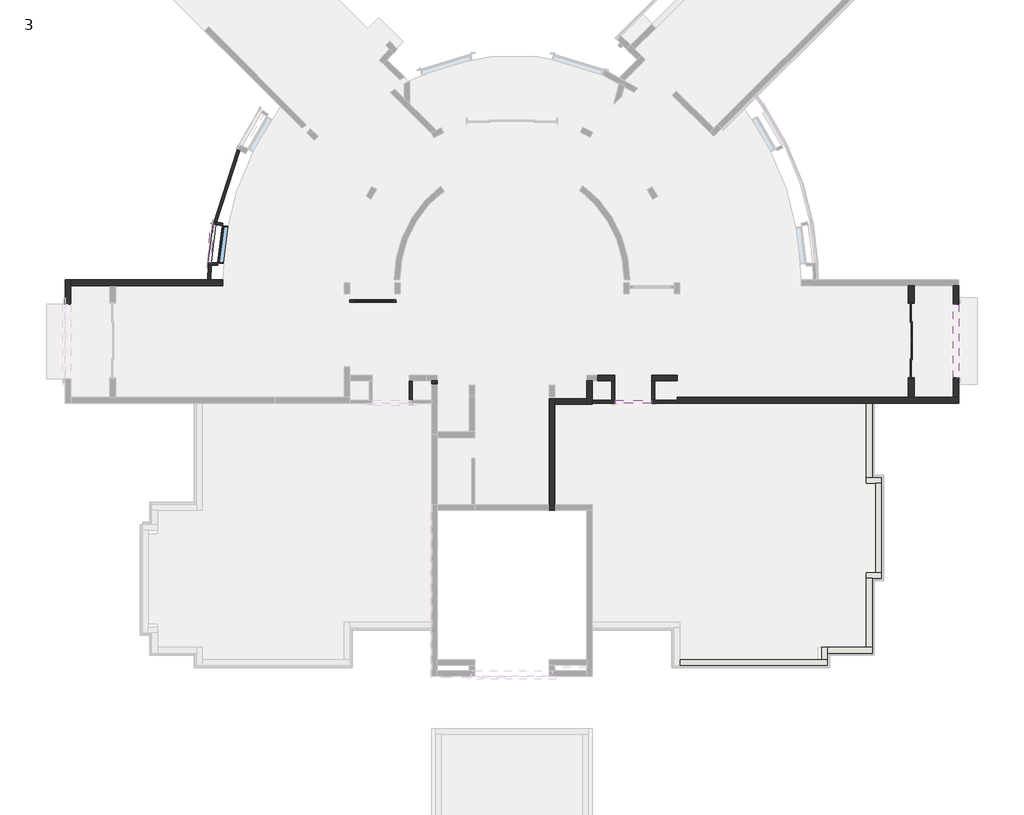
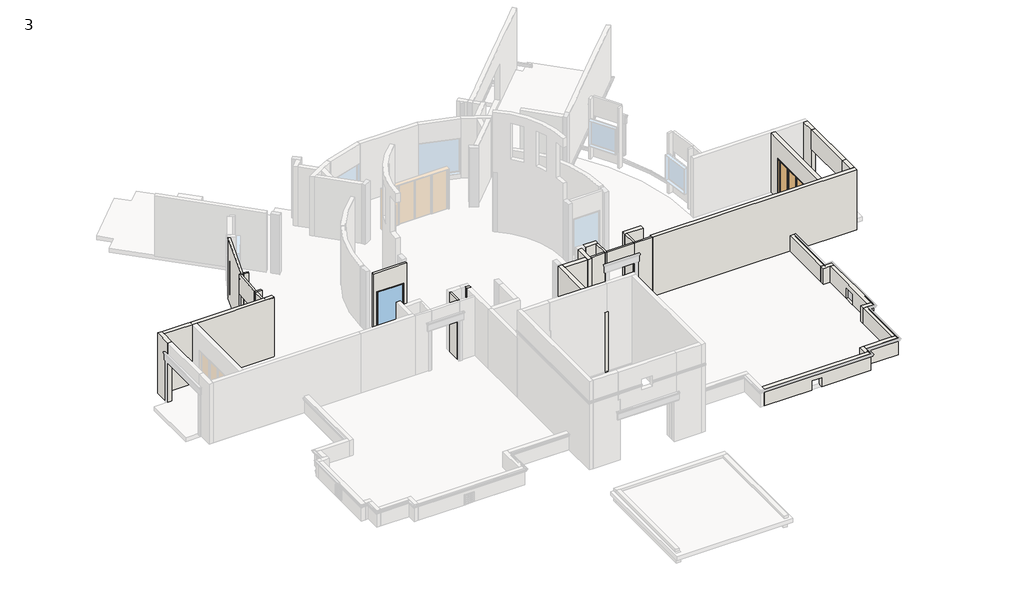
# One storey, part 2 of 12: 34 walls, 2 windows, 1 door.
"""IFC4 building model written with IfcOpenShell, lengths in millimetres."""

from ifc_helpers import new_model, si_unit, point, frame, frame_2d, origin, place, context, project, spatial, polyline, circle_curve, trimmed, segment, composite_curve, outline, extrude, faceted_brep, transform, mapped, element, save
from ifc_brep_helpers import plane_surface, cylinder_surface, revolved_surface, advanced_brep
from components import aus_sliding_door_4_panel_type_3_7ec97240, fixed_w2_3_782477aa, fixed_w5f_2_3b2bf8fd

model = new_model("IFC4")

# Units and contexts
model_context = context("Model", 3, world=origin())
ifc_project = project(units=[si_unit("LENGTHUNIT", "METRE", prefix="MILLI")], contexts=[model_context])

# Site, building, storey
site = spatial("IfcSite", under=ifc_project)
building = spatial("IfcBuilding", under=site)
storey = spatial("IfcBuildingStorey", under=building, Name="3", Elevation=3581.4)

# Door
placement = place(None, origin())
aus_sliding_door_4_panel_type_3_shape = aus_sliding_door_4_panel_type_3_7ec97240(model_context)
element("IfcDoor", 1, ObjectType="AUS_Sliding Door 4 Panel : Type 3", at=placement, inside=storey, context=model_context, shape_type="MappedRepresentation", body=[
    mapped(aus_sliding_door_4_panel_type_3_shape, transform((7918.2049094, -1857.8613299, 3581.4), x_axis=(0.0, -1.0, 0.0), y_axis=(1.0, 0.0, 0.0), z_axis=(0.0, 0.0, 1.0))),
])

# Walls
element("IfcWall", 2, ObjectType="115mm  BK WALL 3", at=placement, inside=storey, context=model_context, shape_type="Brep", body=[
    faceted_brep([(-12579.5950906, -3581.9193311, 3581.4), (-12579.5950906, -4382.0193311, 3581.4), (-12579.5950906, -4382.0193311, 6019.8), (-12579.5950906, -4382.0193311, 7162.8), (-12579.5950906, -3581.9193311, 7162.8), (-12465.2950906, -3581.9193311, 3581.4), (-12465.2950906, -3581.9193311, 7162.8), (-12465.2950906, -4382.0193311, 7162.8), (-12465.2950906, -4382.0193311, 3581.4), (-12522.4450906, -4382.0193311, 7162.8)], [[[0, 1, 2, 3, 4]], [[5, 6, 7, 8]], [[1, 0, 5, 8]], [[4, 3, 9, 7, 6]], [[0, 4, 6, 5]], [[1, 8, 7, 9, 3, 2]]]),
])
element("IfcWall", 3, ObjectType="115mm  BK WALL 3", at=placement, inside=storey, context=model_context, shape_type="AdvancedBrep", body=[
    advanced_brep(
    [(-15017.9950906, -381.5193311, 3581.4), (-13113.6333445, -381.5193311, 3581.4), (-13113.6333445, -381.5193311, 7162.8), (-15017.9950906, -381.5193311, 7162.8), (-14810.3508727, -381.5193311, 6019.8), (-13286.3508727, -381.5193311, 6019.8), (-13286.3508727, -381.5193311, 3886.2), (-14810.3508727, -381.5193311, 3886.2), (-15017.9950906, -267.2193311, 3581.4), (-15017.9950906, -267.2193311, 7162.8), (-13134.4006599, -267.2193311, 7162.8), (-13134.4006599, -267.2193311, 3581.4), (-14810.3508727, -267.2193311, 6019.8), (-14810.3508727, -267.2193311, 3886.2), (-13286.3508727, -267.2193311, 3886.2), (-13286.3508727, -267.2193311, 6019.8)],
    [
        (0, 1),
        (1, 2),
        (2, 3),
        (3, 0),
        (4, 5),
        (5, 6),
        (6, 7),
        (7, 4),
        (8, 9),
        (9, 10),
        (10, 11),
        (11, 8),
        (12, 13),
        (13, 14),
        (14, 15),
        (15, 12),
        (0, 8),
        (11, 1, circle_curve(frame((-8388.5950906, 536.0156211, 3581.4), z_axis=(0.0, 0.0, 1.0), x_axis=(1.0, 0.0, 0.0)), 4813.3)),
        (2, 10, circle_curve(frame((-8388.5950906, 536.0156211, 7162.8), z_axis=(0.0, 0.0, -1.0), x_axis=(1.0, 0.0, 0.0)), 4813.3)),
        (9, 3),
        (12, 4),
        (7, 13),
        (6, 14),
        (5, 15),
    ],
    [
        plane_surface(frame((-15017.9950906, -381.5193311, 3581.4), z_axis=(0.0, -1.0, 0.0), x_axis=(1.0, 0.0, 0.0))),
        plane_surface(frame((-15017.9950906, -267.2193311, 3581.4), z_axis=(0.0, 1.0, 0.0), x_axis=(-1.0, 0.0, 0.0))),
        plane_surface(frame((-15017.9950906, -381.5193311, 3581.4), z_axis=(0.0, 0.0, -1.0), x_axis=(0.0, 1.0, 0.0))),
        plane_surface(frame((-13008.1555387, -381.5193311, 7162.8), z_axis=(0.0, 0.0, 1.0), x_axis=(0.0, 1.0, 0.0))),
        plane_surface(frame((-15017.9950906, -381.5193311, 7162.8), z_axis=(-1.0, 0.0, 0.0), x_axis=(0.0, 1.0, 0.0))),
        revolved_surface(polyline([(-3575.2950905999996, 536.0156211, 7162.8), (-3575.2950905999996, 536.0156211, 3581.4)]), (-8388.5950906, 536.0156211, 3581.4), (0.0, 0.0, 1.0)),
        plane_surface(frame((-14810.3508727, -267.2193311, 6019.8), z_axis=(1.0, 0.0, 0.0), x_axis=(0.0, -1.0, 0.0))),
        plane_surface(frame((-14810.3508727, -267.2193311, 3886.2), z_axis=(0.0, 0.0, 1.0), x_axis=(0.0, -1.0, 0.0))),
        plane_surface(frame((-13286.3508727, -267.2193311, 3886.2), z_axis=(-1.0, 0.0, 0.0), x_axis=(0.0, -1.0, 0.0))),
        plane_surface(frame((-13286.3508727, -267.2193311, 6019.8), z_axis=(0.0, 0.0, -1.0), x_axis=(0.0, -1.0, 0.0))),
    ],
    [
        (0, [[1, 2, 3, 4], [5, 6, 7, 8]]),
        (1, [[9, 10, 11, 12], [13, 14, 15, 16]]),
        (2, [[-1, 17, -12, 18]]),
        (3, [[-3, 19, -10, 20]]),
        (4, [[-4, -20, -9, -17]]),
        (5, [[-2, -18, -11, -19]]),
        (6, [[-13, 21, -8, 22]]),
        (7, [[-14, -22, -7, 23]]),
        (8, [[-15, -23, -6, 24]]),
        (9, [[-16, -24, -5, -21]]),
    ],
),
])
element("IfcWall", 4, ObjectType="115mm  BK WALL 3", at=placement, inside=storey, context=model_context, shape_type="Brep", body=[
    faceted_brep([(-1644.8950906, -4382.0193311, 3581.4), (-2559.2950906, -4382.0193311, 3581.4), (-2673.5950906, -4382.0193311, 3581.4), (-2673.5950906, -4382.0193311, 6019.8), (-2673.5950906, -4382.0193311, 7162.8), (-2559.2950906, -4382.0193311, 7162.8), (-1644.8950906, -4382.0193311, 7162.8), (-2673.5950906, -4496.3193311, 3581.4), (-1644.8950906, -4496.3193311, 3581.4), (-1644.8950906, -4496.3193311, 7162.8), (-2673.5950906, -4496.3193311, 7162.8), (-2673.5950906, -4496.3193311, 6019.8)], [[[0, 1, 2, 3, 4, 5, 6]], [[7, 8, 9, 10, 11]], [[2, 1, 0, 8, 7]], [[6, 5, 4, 10, 9]], [[0, 6, 9, 8]], [[2, 7, 11, 10, 4, 3]]]),
])
element("IfcWall", 5, ObjectType="115mm  BK WALL 3", at=placement, inside=storey, context=model_context, shape_type="SweptSolid", body=[
    extrude(outline(polyline([(-2673.5950906, -4382.0193311), (-2673.5950906, -3581.9193311), (-2559.2950906, -3581.9193311), (-2559.2950906, -4382.0193311), (-2673.5950906, -4382.0193311)])), frame((0.0, 0.0, 3581.4), z_axis=(0.0, 0.0, 1.0), x_axis=(1.0, 0.0, 0.0)), (0.0, 0.0, 1.0), 3581.4),
])
element("IfcWall", 6, ObjectType="115mm  BK WALL 3", at=placement, inside=storey, context=model_context, shape_type="Brep", body=[
    faceted_brep([(-4311.8950906, -3581.9193311, 3581.4), (-4311.8950906, -4382.0193311, 3581.4), (-4311.8950906, -4496.3193311, 3581.4), (-4311.8950906, -4496.3193311, 7162.8), (-4311.8950906, -4382.0193311, 7162.8), (-4311.8950906, -3581.9193311, 7162.8), (-4197.5950906, -3581.9193311, 3581.4), (-4197.5950906, -3581.9193311, 7162.8), (-4197.5950906, -4382.0193311, 7162.8), (-4197.5950906, -4496.3193311, 7162.8), (-4197.5950906, -4496.3193311, 6019.8), (-4197.5950906, -4496.3193311, 3581.4)], [[[0, 1, 2, 3, 4, 5]], [[6, 7, 8, 9, 10, 11]], [[2, 1, 0, 6, 11]], [[5, 4, 3, 9, 8, 7]], [[2, 11, 10, 9, 3]], [[0, 5, 7, 6]]]),
])
element("IfcWall", 7, ObjectType="115mm  BK WALL 3", at=placement, inside=storey, context=model_context, shape_type="SweptSolid", body=[
    extrude(outline(polyline([(-5111.9950906, -4382.0193311), (-4311.8950906, -4382.0193311), (-4311.8950906, -4496.3193311), (-5111.9950906, -4496.3193311), (-5111.9950906, -4382.0193311)])), frame((0.0, 0.0, 3581.4), z_axis=(0.0, 0.0, 1.0), x_axis=(1.0, 0.0, 0.0)), (0.0, 0.0, 1.0), 3581.4),
])
element("IfcWall", 8, ObjectType="115mm BK WALL", at=placement, inside=storey, context=model_context, shape_type="AdvancedBrep", body=[
    advanced_brep(
    [(-20795.18386, 1125.8117433, 7162.8), (-20809.1950906, 536.0156211, 7162.8), (-20694.8950906, 536.0156211, 7162.8), (-20680.7535757, 1125.8117433, 7162.8), (-20809.1950906, 536.0156211, 3581.4), (-20795.18386, 1125.8117433, 3581.4), (-20680.7535757, 1125.8117433, 3581.4), (-20694.8950906, 536.0156211, 3581.4), (-20795.18386, 1125.8117433, 4476.75), (-20795.18386, 1125.8117433, 4292.6), (-20795.18386, 1125.8117433, 3854.45), (-20795.18386, 1125.8117433, 3733.8), (-20809.1950906, 536.0156211, 3733.8), (-20809.1950906, 536.0156211, 3854.45)],
    [
        (0, 1, circle_curve(frame((-8388.5950906, 536.0156211, 7162.8), z_axis=(0.0, 0.0, 1.0), x_axis=(1.0, 0.0, 0.0)), 12420.6)),
        (1, 2),
        (2, 3, circle_curve(frame((-8388.5950906, 536.0156211, 7162.8), z_axis=(0.0, 0.0, -1.0), x_axis=(1.0, 0.0, 0.0)), 12306.3)),
        (3, 0),
        (4, 5, circle_curve(frame((-8388.5950906, 536.0156211, 3581.4), z_axis=(0.0, 0.0, -1.0), x_axis=(1.0, 0.0, 0.0)), 12420.6)),
        (5, 6),
        (6, 7, circle_curve(frame((-8388.5950906, 536.0156211, 3581.4), z_axis=(0.0, 0.0, 1.0), x_axis=(1.0, 0.0, 0.0)), 12306.3)),
        (7, 4),
        (0, 8),
        (8, 9),
        (9, 10),
        (10, 11),
        (11, 5),
        (4, 12),
        (12, 13),
        (13, 1),
        (7, 2),
        (6, 3),
    ],
    [
        plane_surface(frame((4032.0049094, 536.0156211, 7162.8), z_axis=(0.0, 0.0, 1.0), x_axis=(0.0, 1.0, 0.0))),
        plane_surface(frame((4032.0049094, 536.0156211, 3581.4), z_axis=(0.0, 0.0, -1.0), x_axis=(0.0, -1.0, 0.0))),
        cylinder_surface(frame((-8388.5950906, 536.0156211, 3581.4), z_axis=(0.0, 0.0, 1.0), x_axis=(1.0, 0.0, 0.0)), 12420.6),
        plane_surface(frame((-20809.1950906, 536.0156211, 7162.8), z_axis=(0.0, -1.0, 0.0), x_axis=(0.0, 0.0, -1.0))),
        revolved_surface(polyline([(3917.7049093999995, 536.0156211, 3581.4), (3917.7049093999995, 536.0156211, 7162.8)]), (-8388.5950906, 536.0156211, 3581.4), (0.0, 0.0, -1.0)),
        plane_surface(frame((-20674.7364027, 1125.8117433, 3581.4), z_axis=(0.0, 1.0, 0.0), x_axis=(1.0, 0.0, 0.0))),
    ],
    [
        (0, [[1, 2, 3, 4]]),
        (1, [[5, 6, 7, 8]]),
        (2, [[-1, 9, 10, 11, 12, 13, -5, 14, 15, 16]]),
        (3, [[-2, -16, -15, -14, -8, 17]]),
        (4, [[-3, -17, -7, 18]]),
        (5, [[-6, -13, -12, -11, -10, -9, -4, -18]]),
    ],
),
])
element("IfcWall", 9, ObjectType="115mm BK WALL", at=placement, inside=storey, context=model_context, shape_type="AdvancedBrep", body=[
    advanced_brep(
    [(-19612.8127258, 5854.6848942, 7162.8), (-20598.9292774, 2811.7667949, 7162.8), (-20486.7569253, 2789.7902129, 7162.8), (-20465.2985268, 2902.0772103, 7162.8), (-19510.4342606, 5803.8152723, 7162.8), (-20598.9292774, 2811.7667949, 3581.4), (-19612.8127258, 5854.6848942, 3581.4), (-19510.4342606, 5803.8152723, 3581.4), (-20465.2985268, 2902.0772103, 3581.4), (-20486.7569253, 2789.7902129, 3581.4), (-19612.8127258, 5854.6848942, 6515.1), (-19612.8127258, 5854.6848942, 6019.8), (-19612.8127258, 5854.6848942, 4495.8), (-19612.8127258, 5854.6848942, 4311.65), (-19612.8127258, 5854.6848942, 3854.45), (-19612.8127258, 5854.6848942, 3733.8), (-20598.9292774, 2811.7667949, 3733.8), (-20598.9292774, 2811.7667949, 3854.45), (-20598.9292774, 2811.7667949, 4292.6), (-20598.9292774, 2811.7667949, 4476.75), (-20598.9292774, 2811.7667949, 4495.8), (-20486.7569253, 2789.7902129, 4495.8)],
    [
        (0, 1, circle_curve(frame((-8388.5950906, 536.0156211, 7162.8), z_axis=(0.0, 0.0, 1.0), x_axis=(1.0, 0.0, 0.0)), 12420.6)),
        (1, 2),
        (2, 3, circle_curve(frame((-8388.5950906, 536.0156211, 7162.8), z_axis=(0.0, 0.0, -1.0), x_axis=(1.0, 0.0, 0.0)), 12306.3)),
        (3, 4, circle_curve(frame((-8388.5950906, 536.0156211, 7162.8), z_axis=(0.0, 0.0, -1.0), x_axis=(1.0, 0.0, 0.0)), 12306.2997416)),
        (4, 0),
        (5, 6, circle_curve(frame((-8388.5950906, 536.0156211, 3581.4), z_axis=(0.0, 0.0, -1.0), x_axis=(1.0, 0.0, 0.0)), 12420.6)),
        (6, 7),
        (7, 8, circle_curve(frame((-8388.5950906, 536.0156211, 3581.4), z_axis=(0.0, 0.0, 1.0), x_axis=(1.0, 0.0, 0.0)), 12306.3)),
        (8, 9, circle_curve(frame((-8388.5950906, 536.0156211, 3581.4), z_axis=(0.0, 0.0, 1.0), x_axis=(1.0, 0.0, 0.0)), 12306.2997416)),
        (9, 5),
        (0, 10),
        (10, 11),
        (11, 12),
        (12, 13),
        (13, 14),
        (14, 15),
        (15, 6),
        (5, 16),
        (16, 17),
        (17, 18),
        (18, 19),
        (19, 20),
        (20, 1),
        (2, 21),
        (21, 9),
        (7, 4),
    ],
    [
        plane_surface(frame((4032.0049094, 536.0156211, 7162.8), z_axis=(0.0, 0.0, 1.0), x_axis=(0.0, 1.0, 0.0))),
        plane_surface(frame((4032.0049094, 536.0156211, 3581.4), z_axis=(0.0, 0.0, -1.0), x_axis=(0.0, -1.0, 0.0))),
        cylinder_surface(frame((-8388.5950906, 536.0156211, 3581.4), z_axis=(0.0, 0.0, 1.0), x_axis=(1.0, 0.0, 0.0)), 12420.6),
        revolved_surface(polyline([(3917.7049093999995, 536.0156211, 3581.4), (3917.7049093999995, 536.0156211, 7162.8)]), (-8388.5950906, 536.0156211, 3581.4), (0.0, 0.0, -1.0)),
        plane_surface(frame((-20461.9793314, 2784.9358365, 3581.4), z_axis=(-0.1922628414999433, -0.9813434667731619, 0.0), x_axis=(0.9813434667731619, -0.1922628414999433, 0.0))),
        plane_surface(frame((-19512.3825707, 5804.783345, 3581.4), z_axis=(0.4449755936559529, 0.8955426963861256, 0.0), x_axis=(0.8955426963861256, -0.4449755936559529, 0.0))),
    ],
    [
        (0, [[1, 2, 3, 4, 5]]),
        (1, [[6, 7, 8, 9, 10]]),
        (2, [[-1, 11, 12, 13, 14, 15, 16, 17, -6, 18, 19, 20, 21, 22, 23]]),
        (3, [[-4, -3, 24, 25, -9, -8, 26]]),
        (4, [[-10, -25, -24, -2, -23, -22, -21, -20, -19, -18]]),
        (5, [[-7, -17, -16, -15, -14, -13, -12, -11, -5, -26]]),
    ],
),
])
element("IfcWall", 10, ObjectType="115mm BK WALL", at=placement, inside=storey, context=model_context, shape_type="SweptSolid", body=[
    extrude(outline(composite_curve([segment(polyline([(-20224.4578706, 2738.4011088), (-20486.7569253, 2789.7902129)]), True, "CONTINUOUS"), segment(trimmed(circle_curve(frame_2d((-8388.5950906, 536.0156211)), 12306.3), [point((-20486.7569253, 2789.7902129))], [point((-20465.3021957, 2902.0598275))], False, "CARTESIAN"), True, "CONTINUOUS"), segment(polyline([(-20465.3021957, 2902.0598275), (-20202.9860175, 2850.6673686)]), True, "CONTINUOUS"), segment(trimmed(circle_curve(frame_2d((-8388.5950906, 532.8806689)), 12039.6), [point((-20202.9860175, 2850.6673686))], [point((-20224.4578706, 2738.4011088))], True, "CARTESIAN"), True, "CONTINUOUS")], self_intersect=False)), frame((0.0, 0.0, 3581.4), z_axis=(0.0, 0.0, 1.0), x_axis=(1.0, 0.0, 0.0)), (0.0, 0.0, 1.0), 3581.4),
])
element("IfcWall", 11, ObjectType="115mm BK WALL", at=placement, inside=storey, context=model_context, shape_type="AdvancedBrep", body=[
    advanced_brep(
    [(-20795.18386, 1125.8117433, 3581.4), (-20680.7535757, 1125.8117433, 3581.4), (-20413.5857725, 1125.8117433, 3581.4), (-20413.5857725, 1125.8117433, 7162.8), (-20680.7535757, 1125.8117433, 7162.8), (-20795.18386, 1125.8117433, 7162.8), (-20795.18386, 1125.8117433, 4476.75), (-20795.18386, 1125.8117433, 4292.6), (-20795.18386, 1125.8117433, 3854.45), (-20795.18386, 1125.8117433, 3733.8), (-20407.4050303, 1240.1117433, 3581.4), (-20674.7364027, 1240.1117433, 3581.4), (-20789.2222122, 1240.1117433, 3581.4), (-20789.2222122, 1240.1117433, 3733.8), (-20789.2222122, 1240.1117433, 3854.45), (-20789.2222122, 1240.1117433, 4292.6), (-20789.2222122, 1240.1117433, 4476.75), (-20789.2222122, 1240.1117433, 4495.8), (-20789.2222122, 1240.1117433, 6019.8), (-20785.8349153, 1240.1117433, 6019.8), (-20785.8349153, 1240.1117433, 6515.1), (-20789.2222122, 1240.1117433, 6515.1), (-20789.2222122, 1240.1117433, 7162.8), (-20785.8349153, 1240.1117433, 7162.8), (-20670.7576583, 1240.1117433, 7162.8), (-20407.4050303, 1240.1117433, 7162.8), (-20792.0756334, 1187.9165206, 6515.1), (-20792.0756334, 1187.9165206, 6019.8)],
    [
        (0, 1),
        (1, 2),
        (2, 3),
        (3, 4),
        (4, 5),
        (5, 6),
        (6, 7),
        (7, 8),
        (8, 9),
        (9, 0),
        (10, 11),
        (11, 12),
        (12, 13),
        (13, 14),
        (14, 15),
        (15, 16),
        (16, 17),
        (17, 18),
        (18, 19),
        (19, 20),
        (20, 21),
        (21, 22),
        (22, 23),
        (23, 24),
        (24, 25),
        (25, 10),
        (0, 12, circle_curve(frame((-8388.5950906, 536.0156211, 3581.4), z_axis=(0.0, 0.0, -1.0), x_axis=(1.0, 0.0, 0.0)), 12420.6)),
        (10, 2, circle_curve(frame((-8388.5950906, 532.8806689, 3581.4), z_axis=(0.0, 0.0, 1.0), x_axis=(1.0, 0.0, 0.0)), 12039.6)),
        (3, 25, circle_curve(frame((-8388.5950906, 532.8806689, 7162.8), z_axis=(0.0, 0.0, -1.0), x_axis=(1.0, 0.0, 0.0)), 12039.6)),
        (22, 5, circle_curve(frame((-8388.5950906, 536.0156211, 7162.8), z_axis=(0.0, 0.0, 1.0), x_axis=(1.0, 0.0, 0.0)), 12420.6)),
        (21, 26, circle_curve(frame((-8388.5950906, 536.0156211, 6515.1), z_axis=(0.0, 0.0, 1.0), x_axis=(1.0, 0.0, 0.0)), 12420.6)),
        (26, 27),
        (27, 18, circle_curve(frame((-8388.5950906, 536.0156211, 6019.8), z_axis=(0.0, 0.0, -1.0), x_axis=(1.0, 0.0, 0.0)), 12420.6)),
        (27, 19, circle_curve(frame((-32865.3213766, 2657.9239878, 6019.8), z_axis=(0.0, 0.0, 1.0), x_axis=(0.9909538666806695, -0.13420295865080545, 0.0)), 12162.408673)),
        (26, 20, circle_curve(frame((-32865.3213766, 2657.9239878, 6515.1), z_axis=(0.0, 0.0, 1.0), x_axis=(0.9909538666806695, -0.13420295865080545, 0.0)), 12162.408673)),
    ],
    [
        plane_surface(frame((-20674.7364027, 1125.8117433, 3581.4), z_axis=(0.0, -1.0, 0.0), x_axis=(1.0, 0.0, 0.0))),
        plane_surface(frame((-20674.7364027, 1240.1117433, 3581.4), z_axis=(0.0, 1.0, 0.0), x_axis=(-1.0, 0.0, 0.0))),
        plane_surface(frame((-20735.1070117, 1125.8117433, 3581.4), z_axis=(0.0, 0.0, -1.0), x_axis=(0.0, 1.0, 0.0))),
        plane_surface(frame((-20296.1630491, 1125.8117433, 7162.8), z_axis=(0.0, 0.0, 1.0), x_axis=(0.0, 1.0, 0.0))),
        cylinder_surface(frame((-8388.5950906, 536.0156211, 3581.4), z_axis=(0.0, 0.0, 1.0), x_axis=(1.0, 0.0, 0.0)), 12420.6),
        revolved_surface(polyline([(3651.0049094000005, 532.8806689, 7162.8), (3651.0049094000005, 532.8806689, 3581.4)]), (-8388.5950906, 532.8806689, 3581.4), (0.0, 0.0, 1.0)),
        plane_surface(frame((-32865.3213766, 2657.9239878, 6019.8), z_axis=(0.0, 0.0, 1.0000000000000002), x_axis=(0.9909538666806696, -0.13420295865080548, 0.0))),
        revolved_surface(polyline([(-20812.93547394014, 1025.6927595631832, 6515.1), (-20812.93547394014, 1025.6927595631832, 6019.8)]), (-32865.3213766, 2657.9239878, 6019.8), (0.0, 0.0, 1.0)),
        plane_surface(frame((-32865.3213766, 2657.9239878, 6515.1), z_axis=(0.0, 0.0, -1.0000000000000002), x_axis=(0.9909538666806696, -0.13420295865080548, 0.0))),
    ],
    [
        (0, [[1, 2, 3, 4, 5, 6, 7, 8, 9, 10]]),
        (1, [[11, 12, 13, 14, 15, 16, 17, 18, 19, 20, 21, 22, 23, 24, 25, 26]]),
        (2, [[-2, -1, 27, -12, -11, 28]]),
        (3, [[-5, -4, 29, -25, -24, -23, 30]]),
        (4, [[-27, -10, -9, -8, -7, -6, -30, -22, 31, 32, 33, -18, -17, -16, -15, -14, -13]]),
        (5, [[-3, -28, -26, -29]]),
        (6, [[34, -19, -33]]),
        (7, [[-34, -32, 35, -20]]),
        (8, [[-35, -31, -21]]),
    ],
),
])
element("IfcWall", 12, ObjectType="115mm BK WALL", at=placement, inside=storey, context=model_context, shape_type="AdvancedBrep", body=[
    advanced_brep(
    [(-20704.5279138, 2856.1336861, 7162.8), (-20785.8349153, 1240.1117433, 7162.8), (-20670.7576583, 1240.1117433, 7162.8), (-20590.2430933, 2857.9964231, 7162.8), (-20785.8349153, 1240.1117433, 6019.8), (-20704.5279138, 2856.1336861, 6019.8), (-20590.2430933, 2857.9964231, 6019.8), (-20670.7576583, 1240.1117433, 6019.8), (-20704.5279138, 2856.1336861, 6515.1), (-20785.8349153, 1240.1117433, 6515.1)],
    [
        (0, 1, circle_curve(frame((-32865.3213766, 2657.9239878, 7162.8), z_axis=(0.0, 0.0, -1.0), x_axis=(1.0, 0.0, 0.0)), 12162.408673)),
        (1, 2),
        (2, 3, circle_curve(frame((-32865.3213766, 2657.9239878, 7162.8), z_axis=(0.0, 0.0, 1.0), x_axis=(1.0, 0.0, 0.0)), 12276.708673)),
        (3, 0),
        (4, 5, circle_curve(frame((-32865.3213766, 2657.9239878, 6019.8), z_axis=(0.0, 0.0, 1.0), x_axis=(1.0, 0.0, 0.0)), 12162.408673)),
        (5, 6),
        (6, 7, circle_curve(frame((-32865.3213766, 2657.9239878, 6019.8), z_axis=(0.0, 0.0, -1.0), x_axis=(1.0, 0.0, 0.0)), 12276.708673)),
        (7, 4),
        (0, 8),
        (8, 5),
        (4, 9),
        (9, 1),
        (2, 7),
        (6, 3),
    ],
    [
        plane_surface(frame((-20702.9127036, 2657.9239878, 7162.8), z_axis=(0.0, 0.0, 1.0), x_axis=(0.0, -1.0, 0.0))),
        plane_surface(frame((-20702.9127036, 2657.9239878, 6019.8), z_axis=(0.0, 0.0, -1.0), x_axis=(0.0, 1.0, 0.0))),
        revolved_surface(polyline([(-20702.9127036, 2657.9239878, 6019.8), (-20702.9127036, 2657.9239878, 7162.8)]), (-32865.3213766, 2657.9239878, 6019.8), (0.0, 0.0, -1.0)),
        cylinder_surface(frame((-32865.3213766, 2657.9239878, 6019.8), z_axis=(0.0, 0.0, 1.0), x_axis=(1.0, 0.0, 0.0)), 12276.708673),
        plane_surface(frame((-20590.2430933, 2857.9964231, 7162.8), z_axis=(-0.016296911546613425, 0.9998671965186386, 0.0), x_axis=(0.0, 0.0, -1.0))),
        plane_surface(frame((-20674.7364027, 1240.1117433, 3581.4), z_axis=(0.0, -1.0, 0.0), x_axis=(-1.0, 0.0, 0.0))),
    ],
    [
        (0, [[1, 2, 3, 4]]),
        (1, [[5, 6, 7, 8]]),
        (2, [[-1, 9, 10, -5, 11, 12]]),
        (3, [[-3, 13, -7, 14]]),
        (4, [[-4, -14, -6, -10, -9]]),
        (5, [[-2, -12, -11, -8, -13]]),
    ],
),
])
element("IfcWall", 13, ObjectType="115mm BK WALL", at=placement, inside=storey, context=model_context, shape_type="SweptSolid", body=[
    extrude(outline(polyline([(-2673.5950906, -4496.3193311), (-4197.5950906, -4496.3193311), (-4197.5950906, -4382.0193311), (-2673.5950906, -4382.0193311), (-2673.5950906, -4496.3193311)])), frame((0.0, 0.0, 6019.8), z_axis=(0.0, 0.0, 1.0), x_axis=(1.0, 0.0, 0.0)), (0.0, 0.0, 1.0), 1143.0),
])
element("IfcWall", 14, ObjectType="115mm BK WALL 2", at=placement, inside=storey, context=model_context, shape_type="AdvancedBrep", body=[
    advanced_brep(
    [(-20598.9292774, 2811.7667949, 4495.8), (-20789.2222122, 1240.1117433, 4495.8), (-20674.7364027, 1240.1117433, 4495.8), (-20486.7569253, 2789.7902129, 4495.8), (-20789.2222122, 1240.1117433, 3581.4), (-20598.9292774, 2811.7667949, 3581.4), (-20486.7569253, 2789.7902129, 3581.4), (-20674.7364027, 1240.1117433, 3581.4), (-20598.9292774, 2811.7667949, 4476.75), (-20598.9292774, 2811.7667949, 4292.6), (-20598.9292774, 2811.7667949, 3854.45), (-20598.9292774, 2811.7667949, 3733.8), (-20789.2222122, 1240.1117433, 3733.8), (-20789.2222122, 1240.1117433, 3854.45), (-20789.2222122, 1240.1117433, 4292.6), (-20789.2222122, 1240.1117433, 4476.75)],
    [
        (0, 1, circle_curve(frame((-8388.5950905, 536.0156211, 4495.8), z_axis=(0.0, 0.0, 1.0), x_axis=(1.0, 0.0, 0.0)), 12420.6000001)),
        (1, 2),
        (2, 3, circle_curve(frame((-8388.5950905, 536.0156211, 4495.8), z_axis=(0.0, 0.0, -1.0), x_axis=(1.0, 0.0, 0.0)), 12306.3000001)),
        (3, 0),
        (4, 5, circle_curve(frame((-8388.5950905, 536.0156211, 3581.4), z_axis=(0.0, 0.0, -1.0), x_axis=(1.0, 0.0, 0.0)), 12420.6000001)),
        (5, 6),
        (6, 7, circle_curve(frame((-8388.5950905, 536.0156211, 3581.4), z_axis=(0.0, 0.0, 1.0), x_axis=(1.0, 0.0, 0.0)), 12306.3000001)),
        (7, 4),
        (0, 8),
        (8, 9),
        (9, 10),
        (10, 11),
        (11, 5),
        (4, 12),
        (12, 13),
        (13, 14),
        (14, 15),
        (15, 1),
        (2, 7),
        (6, 3),
    ],
    [
        plane_surface(frame((4032.0049095, 536.0156211, 4495.8), z_axis=(0.0, 0.0, 1.0), x_axis=(0.0, 1.0, 0.0))),
        plane_surface(frame((4032.0049095, 536.0156211, 3581.4), z_axis=(0.0, 0.0, -1.0), x_axis=(0.0, -1.0, 0.0))),
        cylinder_surface(frame((-8388.5950905, 536.0156211, 3581.4), z_axis=(0.0, 0.0, 1.0), x_axis=(1.0, 0.0, 0.0)), 12420.6000001),
        revolved_surface(polyline([(3917.704909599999, 536.0156211, 3581.4), (3917.704909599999, 536.0156211, 4495.8)]), (-8388.5950905, 536.0156211, 3581.4), (0.0, 0.0, -1.0)),
        plane_surface(frame((-20461.9793314, 2784.9358365, 3581.4), z_axis=(0.1922628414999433, 0.9813434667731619, 0.0), x_axis=(0.9813434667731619, -0.1922628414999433, 0.0))),
        plane_surface(frame((-20674.7364027, 1240.1117433, 3581.4), z_axis=(0.0, -1.0, 0.0), x_axis=(-1.0, 0.0, 0.0))),
    ],
    [
        (0, [[1, 2, 3, 4]]),
        (1, [[5, 6, 7, 8]]),
        (2, [[-1, 9, 10, 11, 12, 13, -5, 14, 15, 16, 17, 18]]),
        (3, [[-3, 19, -7, 20]]),
        (4, [[-4, -20, -6, -13, -12, -11, -10, -9]]),
        (5, [[-2, -18, -17, -16, -15, -14, -8, -19]]),
    ],
),
])
element("IfcWall", 15, ObjectType="230mm BK WALL", at=placement, inside=storey, context=model_context, shape_type="Brep", body=[
    faceted_brep([(-1644.8950906, -4496.3193311, 3581.4), (9861.3049094, -4496.3193311, 3581.4), (9861.3049094, -4496.3193311, 3733.8), (9861.3049094, -4496.3193311, 3854.45), (9861.3049094, -4496.3193311, 7162.8), (-1644.8950906, -4496.3193311, 7162.8), (9861.3049094, -4267.7193311, 3581.4), (9632.7049094, -4267.7193311, 3581.4), (8032.5049094, -4267.7193311, 3581.4), (7803.9049094, -4267.7193311, 3581.4), (-1644.8950906, -4267.7193311, 3581.4), (-1644.8950906, -4267.7193311, 7162.8), (7803.9049094, -4267.7193311, 7162.8), (8032.5049094, -4267.7193311, 7162.8), (9632.7049094, -4267.7193311, 7162.8), (9861.3049094, -4267.7193311, 7162.8), (9861.3049094, -4267.7193311, 3854.45), (9861.3049094, -4267.7193311, 3733.8), (-1644.8950906, -4382.0193311, 3581.4), (-1644.8950906, -4382.0193311, 7162.8)], [[[0, 1, 2, 3, 4, 5]], [[6, 7, 8, 9, 10, 11, 12, 13, 14, 15, 16, 17]], [[1, 0, 18, 10, 9, 8, 7, 6]], [[5, 4, 15, 14, 13, 12, 11, 19]], [[0, 5, 19, 11, 10, 18]], [[1, 6, 17, 16, 15, 4, 3, 2]]]),
])
element("IfcWall", 16, ObjectType="230mm BK WALL", at=placement, inside=storey, context=model_context, shape_type="Brep", body=[
    faceted_brep([(9861.3049094, -4267.7193311, 3581.4), (9861.3049094, -3467.6193311, 3581.4), (9861.3049094, -3467.6193311, 3733.8), (9861.3049094, -3467.6193311, 3854.45), (9861.3049094, -3467.6193311, 6019.8), (9861.3049094, -3467.6193311, 6515.1), (9861.3049094, -3467.6193311, 7162.8), (9861.3049094, -4267.7193311, 7162.8), (9861.3049094, -4267.7193311, 3854.45), (9861.3049094, -4267.7193311, 3733.8), (9632.7049094, -3467.6193311, 3581.4), (9632.7049094, -4267.7193311, 3581.4), (9632.7049094, -4267.7193311, 7162.8), (9632.7049094, -3467.6193311, 7162.8), (9632.7049094, -3467.6193311, 6019.8)], [[[0, 1, 2, 3, 4, 5, 6, 7, 8, 9]], [[10, 11, 12, 13, 14]], [[1, 0, 11, 10]], [[10, 14, 13, 6, 5, 4, 3, 2, 1]], [[7, 6, 13, 12]], [[7, 12, 11, 0, 9, 8]]]),
])
element("IfcWall", 17, ObjectType="230mm BK WALL", at=placement, inside=storey, context=model_context, shape_type="Brep", body=[
    faceted_brep([(9632.7049094, 304.2806689, 3581.4), (9632.7049094, -457.7193311, 3581.4), (9632.7049094, -457.7193311, 6019.8), (9632.7049094, -457.7193311, 7162.8), (9632.7049094, 304.2806689, 7162.8), (9861.3049094, -457.7193311, 3581.4), (9861.3049094, 304.2806689, 3581.4), (9861.3049094, 304.2806689, 3733.8), (9861.3049094, 304.2806689, 3854.45), (9861.3049094, 304.2806689, 7162.8), (9861.3049094, -457.7193311, 7162.8), (9861.3049094, -457.7193311, 6515.1), (9861.3049094, -457.7193311, 6019.8), (9861.3049094, -457.7193311, 3854.45), (9861.3049094, -457.7193311, 3733.8)], [[[0, 1, 2, 3, 4]], [[5, 6, 7, 8, 9, 10, 11, 12, 13, 14]], [[1, 0, 6, 5]], [[3, 2, 1, 5, 14, 13, 12, 11, 10]], [[4, 3, 10, 9]], [[0, 4, 9, 8, 7, 6]]]),
])
element("IfcWall", 18, ObjectType="230mm BK WALL", at=placement, inside=storey, context=model_context, shape_type="SweptSolid", body=[
    extrude(outline(polyline([(-4267.7193311, 7162.8), (304.2806689, 7162.8), (304.2806689, 3581.4), (-379.6193311, 3581.4), (-379.6193311, 6059.8), (-3507.6193311, 6059.8), (-3507.6193311, 3581.4), (-4267.7193311, 3581.4), (-4267.7193311, 7162.8)])), frame((7803.9049094, 0.0, 0.0), z_axis=(1.0, 0.0, 0.0), x_axis=(0.0, 1.0, 0.0)), (0.0, 0.0, 1.0), 228.6),
])
element("IfcWall", 19, ObjectType="230mm BK WALL", at=placement, inside=storey, context=model_context, shape_type="Brep", body=[
    faceted_brep([(-5340.5950906, -3581.9193311, 3581.4), (-5340.5950906, -4324.8693311, 3581.4), (-5340.5950906, -4553.4693311, 3581.4), (-5340.5950906, -4553.4693311, 7162.8), (-5340.5950906, -4324.8693311, 7162.8), (-5340.5950906, -3581.9193311, 7162.8), (-5111.9950906, -3581.9193311, 3581.4), (-5111.9950906, -3581.9193311, 7162.8), (-5111.9950906, -4382.0193311, 7162.8), (-5111.9950906, -4496.3193311, 7162.8), (-5111.9950906, -4553.4693311, 7162.8), (-5111.9950906, -4553.4693311, 3581.4), (-5111.9950906, -4496.3193311, 3581.4), (-5111.9950906, -4382.0193311, 3581.4)], [[[0, 1, 2, 3, 4, 5]], [[6, 7, 8, 9, 10, 11, 12, 13]], [[2, 1, 0, 6, 13, 12, 11]], [[5, 4, 3, 10, 9, 8, 7]], [[0, 5, 7, 6]], [[3, 2, 11, 10]]]),
])
element("IfcWall", 20, ObjectType="230mm BK WALL", at=placement, inside=storey, context=model_context, shape_type="Brep", body=[
    faceted_brep([(-6864.5950906, -4324.8693311, 3581.4), (-6864.5950906, -8649.2193311, 3581.4), (-6864.5950906, -8877.8193311, 3581.4), (-6864.5950906, -8877.8193311, 7162.8), (-6864.5950906, -8649.2193311, 7162.8), (-6864.5950906, -4324.8693311, 7162.8), (-6635.9950906, -4324.8693311, 3581.4), (-6635.9950906, -4324.8693311, 7162.8), (-6635.9950906, -4553.4693311, 7162.8), (-6635.9950906, -8649.2193311, 7162.8), (-6635.9950906, -8877.8193311, 7162.8), (-6635.9950906, -8877.8193311, 3581.4), (-6635.9950906, -8649.2193311, 3581.4), (-6635.9950906, -4553.4693311, 3581.4), (-6750.2950906, -8877.8193311, 7162.8)], [[[0, 1, 2, 3, 4, 5]], [[6, 7, 8, 9, 10, 11, 12, 13]], [[2, 1, 0, 6, 13, 12, 11]], [[5, 4, 3, 14, 10, 9, 8, 7]], [[0, 5, 7, 6]], [[3, 2, 11, 10, 14]]]),
])
element("IfcWall", 21, ObjectType="230mm BK WALL", at=placement, inside=storey, context=model_context, shape_type="SweptSolid", body=[
    extrude(outline(polyline([(-5340.5950906, -4553.4693311), (-6635.9950906, -4553.4693311), (-6635.9950906, -4324.8693311), (-5340.5950906, -4324.8693311), (-5340.5950906, -4553.4693311)])), frame((0.0, 0.0, 3581.4), z_axis=(0.0, 0.0, 1.0), x_axis=(1.0, 0.0, 0.0)), (0.0, 0.0, 1.0), 3581.4),
])
element("IfcWall", 22, ObjectType="230mm BK WALL", at=placement, inside=storey, context=model_context, shape_type="Brep", body=[
    faceted_brep([(-26637.5780453, 532.8806689, 3581.4), (-26637.5780453, -456.9181763, 3581.4), (-26637.5780453, -456.9181763, 3733.8), (-26637.5780453, -456.9181763, 3854.45), (-26637.5780453, -456.9181763, 6019.8), (-26637.5780453, -456.9181763, 7162.8), (-26637.5780453, 532.8806689, 7162.8), (-26637.5780453, 532.8806689, 3854.45), (-26637.5780453, 532.8806689, 3733.8), (-26408.9780453, -456.9181763, 3581.4), (-26408.9780453, 304.2806689, 3581.4), (-26408.9780453, 532.8806689, 3581.4), (-26408.9780453, 532.8806689, 3733.8), (-26408.9780453, 532.8806689, 3854.45), (-26408.9780453, 532.8806689, 7162.8), (-26408.9780453, 304.2806689, 7162.8), (-26408.9780453, -456.9181763, 7162.8), (-26408.9780453, -456.9181763, 6019.8)], [[[0, 1, 2, 3, 4, 5, 6, 7, 8]], [[9, 10, 11, 12, 13, 14, 15, 16, 17]], [[1, 0, 11, 10, 9]], [[9, 17, 16, 5, 4, 3, 2, 1]], [[6, 5, 16, 15, 14]], [[6, 14, 13, 12, 11, 0, 8, 7]]]),
])
element("IfcWall", 23, ObjectType="230mm BK WALL", at=placement, inside=storey, context=model_context, shape_type="AdvancedBrep", body=[
    advanced_brep(
    [(-26408.9780453, 304.2806689, 3581.4), (-24809.6950906, 304.2806689, 3581.4), (-24581.0950906, 304.2806689, 3581.4), (-20197.3826253, 304.2806689, 3581.4), (-20197.3826253, 304.2806689, 7162.8), (-24581.0950906, 304.2806689, 7162.8), (-24809.6950906, 304.2806689, 7162.8), (-26408.9780453, 304.2806689, 7162.8), (-20199.5950906, 532.8806689, 3581.4), (-20428.1950906, 532.8806689, 3581.4), (-26408.9780453, 532.8806689, 3581.4), (-26408.9780453, 532.8806689, 3733.8), (-26408.9780453, 532.8806689, 3854.45), (-26408.9780453, 532.8806689, 7162.8), (-20428.1950906, 532.8806689, 7162.8), (-20199.5950906, 532.8806689, 7162.8)],
    [
        (0, 1),
        (1, 2),
        (2, 3),
        (3, 4),
        (4, 5),
        (5, 6),
        (6, 7),
        (7, 0),
        (8, 9),
        (9, 10),
        (10, 11),
        (11, 12),
        (12, 13),
        (13, 14),
        (14, 15),
        (15, 8),
        (0, 10),
        (8, 3, circle_curve(frame((-8388.5950906, 532.8806689, 3581.4), z_axis=(0.0, 0.0, 1.0), x_axis=(1.0, 0.0, 0.0)), 11811.0)),
        (4, 15, circle_curve(frame((-8388.5950906, 532.8806689, 7162.8), z_axis=(0.0, 0.0, -1.0), x_axis=(1.0, 0.0, 0.0)), 11811.0)),
        (13, 7),
    ],
    [
        plane_surface(frame((-26523.2780453, 304.2806689, 3581.4), z_axis=(0.0, -1.0, 0.0), x_axis=(1.0, 0.0, 0.0))),
        plane_surface(frame((-26523.2780453, 532.8806689, 3581.4), z_axis=(0.0, 1.0, 0.0), x_axis=(-1.0, 0.0, 0.0))),
        plane_surface(frame((-26523.2780453, 304.2806689, 3581.4), z_axis=(0.0, 0.0, -1.0), x_axis=(0.0, 1.0, 0.0))),
        plane_surface(frame((-20313.3473144, 304.2806689, 7162.8), z_axis=(0.0, 0.0, 1.0), x_axis=(0.0, 1.0, 0.0))),
        revolved_surface(polyline([(3422.4049094, 532.8806689, 3581.4), (3422.4049094, 532.8806689, 7162.8)]), (-8388.5950906, 532.8806689, 3581.4), (0.0, 0.0, -1.0)),
        plane_surface(frame((-26408.9780453, 418.5806689, 3581.4), z_axis=(-1.0, 0.0, 0.0), x_axis=(0.0, 1.0, 0.0))),
    ],
    [
        (0, [[1, 2, 3, 4, 5, 6, 7, 8]]),
        (1, [[9, 10, 11, 12, 13, 14, 15, 16]]),
        (2, [[-3, -2, -1, 17, -10, -9, 18]]),
        (3, [[-7, -6, -5, 19, -15, -14, 20]]),
        (4, [[-4, -18, -16, -19]]),
        (5, [[-8, -20, -13, -12, -11, -17]]),
    ],
),
])
element("IfcWall", 24, ObjectType="230mm BK WALL", at=placement, inside=storey, context=model_context, shape_type="SweptSolid", body=[
    extrude(outline(polyline([(-11665.1950906, -3734.3193311), (-11665.1950906, -3581.9193311), (-11436.5950906, -3581.9193311), (-11436.5950906, -3734.3193311), (-11665.1950906, -3734.3193311)])), frame((0.0, 0.0, 3581.4), z_axis=(0.0, 0.0, 1.0), x_axis=(1.0, 0.0, 0.0)), (0.0, 0.0, 1.0), 3581.4),
])
element("IfcWall", 25, ObjectType="230mm BK WALL", at=placement, inside=storey, context=model_context, shape_type="SweptSolid", body=[
    extrude(outline(polyline([(9861.3049094, -457.7193311), (9861.3049094, -3467.6193311), (9632.7049094, -3467.6193311), (9632.7049094, -457.7193311), (9861.3049094, -457.7193311)])), frame((0.0, 0.0, 6019.8), z_axis=(0.0, 0.0, 1.0), x_axis=(1.0, 0.0, 0.0)), (0.0, 0.0, 1.0), 1143.0),
])
element("IfcWall", 26, ObjectType="230mm BK WALL", at=placement, inside=storey, context=model_context, shape_type="Brep", body=[
    faceted_brep([(-1647.1930034, -3353.3193311, 3581.4), (-2673.5950906, -3353.3193311, 3581.4), (-2673.5950906, -3353.3193311, 7162.8), (-1647.1930034, -3353.3193311, 7162.8), (-1647.1930034, -3581.9193311, 3581.4), (-1647.1930034, -3581.9193311, 7162.8), (-2559.2950906, -3581.9193311, 7162.8), (-2673.5950906, -3581.9193311, 7162.8), (-2673.5950906, -3581.9193311, 3581.4), (-2559.2950906, -3581.9193311, 3581.4)], [[[0, 1, 2, 3]], [[4, 5, 6, 7, 8, 9]], [[1, 0, 4, 9, 8]], [[3, 2, 7, 6, 5]], [[0, 3, 5, 4]], [[2, 1, 8, 7]]]),
])
element("IfcWall", 27, ObjectType="230mm BK WALL", at=placement, inside=storey, context=model_context, shape_type="Brep", body=[
    faceted_brep([(-4197.5950906, -3353.3193311, 3581.4), (-4889.2930034, -3353.3193311, 3581.4), (-4889.2930034, -3353.3193311, 7162.8), (-4197.5950906, -3353.3193311, 7162.8), (-4197.5950906, -3581.9193311, 3581.4), (-4197.5950906, -3581.9193311, 7162.8), (-4311.8950906, -3581.9193311, 7162.8), (-4889.2930034, -3581.9193311, 7162.8), (-4889.2930034, -3581.9193311, 3581.4), (-4311.8950906, -3581.9193311, 3581.4)], [[[0, 1, 2, 3]], [[4, 5, 6, 7, 8, 9]], [[1, 0, 4, 9, 8]], [[2, 1, 8, 7]], [[3, 2, 7, 6, 5]], [[0, 3, 5, 4]]]),
])
element("IfcWall", 28, ObjectType="PARAPET", at=placement, inside=storey, context=model_context, shape_type="Brep", body=[
    faceted_brep([(-1530.5950906, -15202.4193311, 3581.4), (1136.255615, -15202.4193311, 3581.4), (1136.255615, -15202.4193311, 3733.8), (1136.255615, -15202.4193311, 3854.45), (1136.255615, -15202.4193311, 4123.3344), (1707.9049094, -15202.4193311, 4123.3344), (1707.9049094, -15202.4193311, 3854.45), (1707.9049094, -15202.4193311, 3733.8), (1707.9049094, -15202.4193311, 3581.4), (4489.2049094, -15202.4193311, 3581.4), (4489.2049094, -15202.4193311, 3733.8), (4489.2049094, -15202.4193311, 3854.45), (4489.2049094, -15202.4193311, 4419.6), (4489.2049094, -15202.4193311, 4572.0), (-1530.5950906, -15202.4193311, 4572.0), (-1530.5950906, -15202.4193311, 4419.6), (-1530.5950906, -15202.4193311, 3854.45), (-1530.5950906, -15202.4193311, 3733.8), (1136.255615, -14973.8193311, 3581.4), (-1530.5950906, -14973.8193311, 3581.4), (-1530.5950906, -14973.8193311, 4572.0), (4260.6049094, -14973.8193311, 4572.0), (4489.2049094, -14973.8193311, 4572.0), (4489.2049094, -14973.8193311, 4419.6), (4489.2049094, -14973.8193311, 3854.45), (4489.2049094, -14973.8193311, 3733.8), (4489.2049094, -14973.8193311, 3581.4), (4260.6049094, -14973.8193311, 3581.4), (1707.9049094, -14973.8193311, 3581.4), (1707.9049094, -14973.8193311, 4123.3344), (1136.255615, -14973.8193311, 4123.3344)], [[[0, 1, 2, 3, 4, 5, 6, 7, 8, 9, 10, 11, 12, 13, 14, 15, 16, 17]], [[18, 19, 20, 21, 22, 23, 24, 25, 26, 27, 28, 29, 30]], [[1, 0, 19, 18]], [[18, 30, 4, 3, 2, 1]], [[5, 4, 30, 29]], [[29, 28, 8, 7, 6, 5]], [[9, 8, 28, 27, 26]], [[14, 13, 22, 21, 20]], [[9, 26, 25, 24, 23, 22, 13, 12, 11, 10]], [[14, 20, 19, 0, 17, 16, 15]]]),
])
element("IfcWall", 29, ObjectType="PARAPET", at=placement, inside=storey, context=model_context, shape_type="Brep", body=[
    faceted_brep([(4489.2049094, -14973.8193311, 3581.4), (4489.2049094, -14707.1193311, 3581.4), (4489.2049094, -14478.5193311, 3581.4), (4489.2049094, -14478.5193311, 4572.0), (4489.2049094, -14707.1193311, 4572.0), (4489.2049094, -14973.8193311, 4572.0), (4489.2049094, -14973.8193311, 4419.6), (4489.2049094, -14973.8193311, 3854.45), (4489.2049094, -14973.8193311, 3733.8), (4260.6049094, -14478.5193311, 3581.4), (4260.6049094, -14973.8193311, 3581.4), (4260.6049094, -14973.8193311, 4572.0), (4260.6049094, -14478.5193311, 4572.0)], [[[0, 1, 2, 3, 4, 5, 6, 7, 8]], [[9, 10, 11, 12]], [[2, 1, 0, 10, 9]], [[12, 11, 5, 4, 3]], [[3, 2, 9, 12]], [[5, 11, 10, 0, 8, 7, 6]]]),
])
element("IfcWall", 30, ObjectType="PARAPET", at=placement, inside=storey, context=model_context, shape_type="Brep", body=[
    faceted_brep([(4489.2049094, -14707.1193311, 3581.4), (6317.0878641, -14707.1193311, 3581.4), (6317.0878641, -14707.1193311, 3733.8), (6317.0878641, -14707.1193311, 3854.45), (6317.0878641, -14707.1193311, 4419.6), (6317.0878641, -14707.1193311, 4572.0), (4489.2049094, -14707.1193311, 4572.0), (4489.2049094, -14707.1193311, 4419.6), (4489.2049094, -14707.1193311, 3854.45), (4489.2049094, -14707.1193311, 3733.8), (6317.0878641, -14478.5193311, 3581.4), (6088.4878641, -14478.5193311, 3581.4), (4489.2049094, -14478.5193311, 3581.4), (4489.2049094, -14478.5193311, 4572.0), (6088.4878641, -14478.5193311, 4572.0), (6317.0878641, -14478.5193311, 4572.0), (6317.0878641, -14478.5193311, 4419.6), (6317.0878641, -14478.5193311, 3854.45), (6317.0878641, -14478.5193311, 3733.8)], [[[0, 1, 2, 3, 4, 5, 6, 7, 8, 9]], [[10, 11, 12, 13, 14, 15, 16, 17, 18]], [[1, 0, 12, 11, 10]], [[6, 5, 15, 14, 13]], [[1, 10, 18, 17, 16, 15, 5, 4, 3, 2]], [[6, 13, 12, 0, 9, 8, 7]]]),
])
element("IfcWall", 31, ObjectType="PARAPET", at=placement, inside=storey, context=model_context, shape_type="Brep", body=[
    faceted_brep([(6317.0878641, -14478.5193311, 3581.4), (6317.0878641, -11658.3181763, 3581.4), (6317.0878641, -11658.3181763, 3733.8), (6317.0878641, -11658.3181763, 3854.45), (6317.0878641, -11658.3181763, 4419.6), (6317.0878641, -11658.3181763, 4572.0), (6317.0878641, -14478.5193311, 4572.0), (6317.0878641, -14478.5193311, 4419.6), (6317.0878641, -14478.5193311, 3854.45), (6317.0878641, -14478.5193311, 3733.8), (6088.4878641, -11658.3181763, 3581.4), (6088.4878641, -14478.5193311, 3581.4), (6088.4878641, -14478.5193311, 4572.0), (6088.4878641, -11658.3181763, 4572.0)], [[[0, 1, 2, 3, 4, 5, 6, 7, 8, 9]], [[10, 11, 12, 13]], [[1, 0, 11, 10]], [[6, 5, 13, 12]], [[6, 12, 11, 0, 9, 8, 7]], [[1, 10, 13, 5, 4, 3, 2]]]),
])
element("IfcWall", 32, ObjectType="PARAPET", at=placement, inside=storey, context=model_context, shape_type="Brep", body=[
    faceted_brep([(6088.4878641, -11658.3181763, 3581.4), (6317.0878641, -11658.3181763, 3581.4), (6697.9385697, -11658.3181763, 3581.4), (6697.9385697, -11658.3181763, 3733.8), (6697.9385697, -11658.3181763, 3854.45), (6697.9385697, -11658.3181763, 4419.6), (6697.9385697, -11658.3181763, 4572.0), (6317.0878641, -11658.3181763, 4572.0), (6088.4878641, -11658.3181763, 4572.0), (6697.9385697, -11429.7181763, 3581.4), (6469.3385697, -11429.7181763, 3581.4), (6088.4878641, -11429.7181763, 3581.4), (6088.4878641, -11429.7181763, 4572.0), (6469.3385697, -11429.7181763, 4572.0), (6697.9385697, -11429.7181763, 4572.0), (6697.9385697, -11429.7181763, 4419.6), (6697.9385697, -11429.7181763, 3854.45), (6697.9385697, -11429.7181763, 3733.8)], [[[0, 1, 2, 3, 4, 5, 6, 7, 8]], [[9, 10, 11, 12, 13, 14, 15, 16, 17]], [[2, 1, 0, 11, 10, 9]], [[14, 13, 12, 8, 7, 6]], [[0, 8, 12, 11]], [[2, 9, 17, 16, 15, 14, 6, 5, 4, 3]]]),
])
element("IfcWall", 33, ObjectType="PARAPET", at=placement, inside=storey, context=model_context, shape_type="Brep", body=[
    faceted_brep([(6697.9385697, -11429.7181763, 3581.4), (6697.9385697, -7772.1181763, 3581.4), (6697.9385697, -7772.1181763, 3733.8), (6697.9385697, -7772.1181763, 3854.45), (6697.9385697, -7772.1181763, 4419.6), (6697.9385697, -7772.1181763, 4572.0), (6697.9385697, -11429.7181763, 4572.0), (6697.9385697, -11429.7181763, 4419.6), (6697.9385697, -11429.7181763, 3854.45), (6697.9385697, -11429.7181763, 3733.8), (6697.9385697, -9351.1181763, 3632.2), (6697.9385697, -9960.7181763, 3632.2), (6697.9385697, -9960.7181763, 3733.8), (6697.9385697, -9960.7181763, 3854.45), (6697.9385697, -9960.7181763, 4241.8), (6697.9385697, -9351.1181763, 4241.8), (6697.9385697, -9351.1181763, 3854.45), (6697.9385697, -9351.1181763, 3733.8), (6469.3385697, -7772.1181763, 3581.4), (6469.3385697, -11429.7181763, 3581.4), (6469.3385697, -11429.7181763, 4572.0), (6469.3385697, -7772.1181763, 4572.0), (6469.3385697, -9351.1181763, 3632.2), (6469.3385697, -9351.1181763, 4241.8), (6469.3385697, -9960.7181763, 4241.8), (6469.3385697, -9960.7181763, 3632.2)], [[[0, 1, 2, 3, 4, 5, 6, 7, 8, 9], [10, 11, 12, 13, 14, 15, 16, 17]], [[18, 19, 20, 21], [22, 23, 24, 25]], [[1, 0, 19, 18]], [[6, 5, 21, 20]], [[23, 22, 10, 17, 16, 15]], [[11, 10, 22, 25]], [[25, 24, 14, 13, 12, 11]], [[15, 14, 24, 23]], [[6, 20, 19, 0, 9, 8, 7]], [[1, 18, 21, 5, 4, 3, 2]]]),
])
element("IfcWall", 34, ObjectType="PARAPET", at=placement, inside=storey, context=model_context, shape_type="Brep", body=[
    faceted_brep([(6697.9385697, -7543.5181763, 3581.4), (6317.0878641, -7543.5181763, 3581.4), (6088.4878641, -7543.5181763, 3581.4), (6088.4878641, -7543.5181763, 4572.0), (6317.0878641, -7543.5181763, 4572.0), (6697.9385697, -7543.5181763, 4572.0), (6697.9385697, -7543.5181763, 4419.6), (6697.9385697, -7543.5181763, 3854.45), (6697.9385697, -7543.5181763, 3733.8), (6088.4878641, -7772.1181763, 3581.4), (6469.3385697, -7772.1181763, 3581.4), (6697.9385697, -7772.1181763, 3581.4), (6697.9385697, -7772.1181763, 3733.8), (6697.9385697, -7772.1181763, 3854.45), (6697.9385697, -7772.1181763, 4419.6), (6697.9385697, -7772.1181763, 4572.0), (6469.3385697, -7772.1181763, 4572.0), (6088.4878641, -7772.1181763, 4572.0)], [[[0, 1, 2, 3, 4, 5, 6, 7, 8]], [[9, 10, 11, 12, 13, 14, 15, 16, 17]], [[2, 1, 0, 11, 10, 9]], [[17, 16, 15, 5, 4, 3]], [[5, 15, 14, 13, 12, 11, 0, 8, 7, 6]], [[3, 2, 9, 17]]]),
])
element("IfcWall", 35, ObjectType="PARAPET", at=placement, inside=storey, context=model_context, shape_type="SweptSolid", body=[
    extrude(outline(polyline([(6317.0878641, -4533.6181763), (6317.0878641, -7543.5181763), (6088.4878641, -7543.5181763), (6088.4878641, -4533.6181763), (6317.0878641, -4533.6181763)])), frame((0.0, 0.0, 3581.4), z_axis=(0.0, 0.0, 1.0), x_axis=(1.0, 0.0, 0.0)), (0.0, 0.0, 1.0), 990.6),
])

# Windows
fixed_w2_3_shape = fixed_w2_3_782477aa(model_context)
element("IfcWindow", 36, ObjectType="Fixed : W2 3", at=placement, inside=storey, context=model_context, shape_type="MappedRepresentation", body=[
    mapped(fixed_w2_3_shape, transform((-20196.9465831, 2013.015032, 4495.8), x_axis=(0.12119589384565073, 0.9926286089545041, 0.0), y_axis=(-0.9926286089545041, 0.12119589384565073, 0.0), z_axis=(0.0, 0.0, 1.0))),
])
fixed_w5f_2_shape = fixed_w5f_2_3b2bf8fd(model_context)
element("IfcWindow", 37, ObjectType="Fixed : w5f 2", at=placement, inside=storey, context=model_context, shape_type="MappedRepresentation", body=[
    mapped(fixed_w5f_2_shape, transform((-14086.4508727, -324.3693311, 2971.8), x_axis=(-1.0, 0.0, 0.0), y_axis=(0.0, -1.0, 0.0), z_axis=(0.0, 0.0, 1.0))),
])

save(model, "model.ifc")
